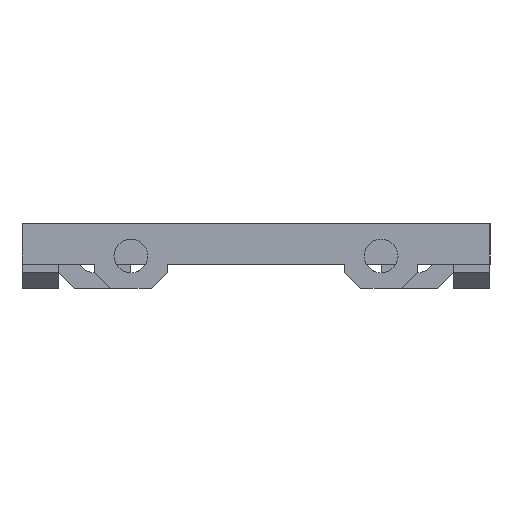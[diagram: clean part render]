
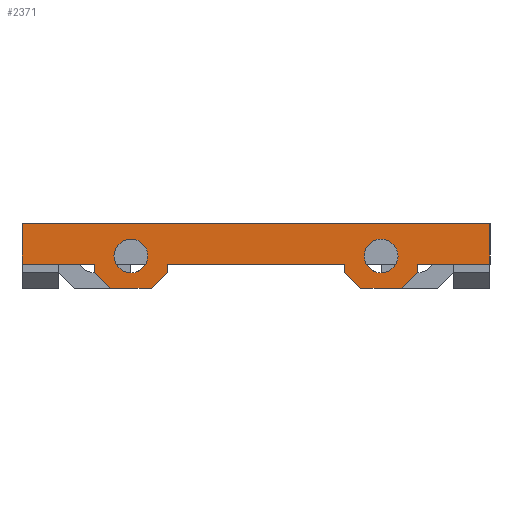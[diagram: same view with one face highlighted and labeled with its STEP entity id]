
A CAD part, left-side view. The second image highlights one B-rep face of the part: STEP entity #2371.
In plain terms, the highlighted planar face has unit normal (-1, 0, 0).
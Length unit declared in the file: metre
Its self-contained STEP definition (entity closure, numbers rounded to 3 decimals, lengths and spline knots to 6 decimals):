
#82=LINE('',#3388,#374);
#90=LINE('',#3404,#382);
#98=LINE('',#3420,#390);
#143=LINE('',#3531,#435);
#171=LINE('',#3600,#463);
#196=LINE('',#3656,#488);
#204=LINE('',#3681,#496);
#205=LINE('',#3683,#497);
#206=LINE('',#3685,#498);
#207=LINE('',#3687,#499);
#208=LINE('',#3689,#500);
#209=LINE('',#3690,#501);
#210=LINE('',#3692,#502);
#211=LINE('',#3694,#503);
#212=LINE('',#3696,#504);
#213=LINE('',#3698,#505);
#374=VECTOR('',#2715,1.);
#382=VECTOR('',#2723,1.);
#390=VECTOR('',#2731,1.);
#435=VECTOR('',#2798,1.);
#463=VECTOR('',#2844,1.);
#488=VECTOR('',#2883,1.);
#496=VECTOR('',#2909,1.);
#497=VECTOR('',#2910,1.);
#498=VECTOR('',#2911,1.);
#499=VECTOR('',#2912,1.);
#500=VECTOR('',#2913,1.);
#501=VECTOR('',#2914,1.);
#502=VECTOR('',#2915,1.);
#503=VECTOR('',#2916,1.);
#504=VECTOR('',#2917,1.);
#505=VECTOR('',#2918,1.);
#840=ORIENTED_EDGE('',*,*,#1497,.F.);
#841=ORIENTED_EDGE('',*,*,#1498,.F.);
#842=ORIENTED_EDGE('',*,*,#1499,.F.);
#843=ORIENTED_EDGE('',*,*,#1500,.T.);
#844=ORIENTED_EDGE('',*,*,#1501,.F.);
#845=ORIENTED_EDGE('',*,*,#1502,.T.);
#846=ORIENTED_EDGE('',*,*,#1503,.T.);
#847=ORIENTED_EDGE('',*,*,#1359,.F.);
#848=ORIENTED_EDGE('',*,*,#1504,.F.);
#849=ORIENTED_EDGE('',*,*,#1505,.T.);
#850=ORIENTED_EDGE('',*,*,#1506,.F.);
#851=ORIENTED_EDGE('',*,*,#1507,.T.);
#852=ORIENTED_EDGE('',*,*,#1508,.T.);
#853=ORIENTED_EDGE('',*,*,#1351,.F.);
#854=ORIENTED_EDGE('',*,*,#1458,.F.);
#855=ORIENTED_EDGE('',*,*,#1422,.T.);
#856=ORIENTED_EDGE('',*,*,#1488,.T.);
#857=ORIENTED_EDGE('',*,*,#1367,.F.);
#1351=EDGE_CURVE('',#1692,#1693,#82,.T.);
#1359=EDGE_CURVE('',#1700,#1701,#90,.T.);
#1367=EDGE_CURVE('',#1708,#1709,#98,.T.);
#1422=EDGE_CURVE('',#1761,#1763,#143,.T.);
#1458=EDGE_CURVE('',#1761,#1692,#171,.T.);
#1488=EDGE_CURVE('',#1763,#1709,#196,.T.);
#1497=EDGE_CURVE('',#1826,#1826,#1903,.T.);
#1498=EDGE_CURVE('',#1827,#1827,#1904,.T.);
#1499=EDGE_CURVE('',#1828,#1708,#204,.T.);
#1500=EDGE_CURVE('',#1828,#1829,#205,.F.);
#1501=EDGE_CURVE('',#1830,#1829,#206,.T.);
#1502=EDGE_CURVE('',#1830,#1831,#207,.T.);
#1503=EDGE_CURVE('',#1831,#1701,#208,.T.);
#1504=EDGE_CURVE('',#1832,#1700,#209,.T.);
#1505=EDGE_CURVE('',#1832,#1833,#210,.T.);
#1506=EDGE_CURVE('',#1834,#1833,#211,.T.);
#1507=EDGE_CURVE('',#1834,#1835,#212,.F.);
#1508=EDGE_CURVE('',#1835,#1693,#213,.T.);
#1692=VERTEX_POINT('',#3387);
#1693=VERTEX_POINT('',#3389);
#1700=VERTEX_POINT('',#3403);
#1701=VERTEX_POINT('',#3405);
#1708=VERTEX_POINT('',#3419);
#1709=VERTEX_POINT('',#3421);
#1761=VERTEX_POINT('',#3526);
#1763=VERTEX_POINT('',#3530);
#1826=VERTEX_POINT('',#3678);
#1827=VERTEX_POINT('',#3680);
#1828=VERTEX_POINT('',#3682);
#1829=VERTEX_POINT('',#3684);
#1830=VERTEX_POINT('',#3686);
#1831=VERTEX_POINT('',#3688);
#1832=VERTEX_POINT('',#3691);
#1833=VERTEX_POINT('',#3693);
#1834=VERTEX_POINT('',#3695);
#1835=VERTEX_POINT('',#3697);
#1903=CIRCLE('',#2528,0.0021);
#1904=CIRCLE('',#2529,0.0021);
#1972=EDGE_LOOP('',(#840));
#1973=EDGE_LOOP('',(#841));
#1974=EDGE_LOOP('',(#842,#843,#844,#845,#846,#847,#848,#849,#850,#851,#852,
#853,#854,#855,#856,#857));
#2142=FACE_BOUND('',#1972,.T.);
#2143=FACE_BOUND('',#1973,.T.);
#2144=FACE_BOUND('',#1974,.T.);
#2270=PLANE('',#2527);
#2371=ADVANCED_FACE('',(#2142,#2143,#2144),#2270,.T.);
#2527=AXIS2_PLACEMENT_3D('',#3676,#2903,#2904);
#2528=AXIS2_PLACEMENT_3D('',#3677,#2905,#2906);
#2529=AXIS2_PLACEMENT_3D('',#3679,#2907,#2908);
#2715=DIRECTION('',(0.,1.,0.));
#2723=DIRECTION('',(0.,1.,0.));
#2731=DIRECTION('',(0.,1.,0.));
#2798=DIRECTION('',(0.,1.,0.));
#2844=DIRECTION('',(0.,0.,-1.));
#2883=DIRECTION('',(0.,0.,-1.));
#2903=DIRECTION('',(-1.,0.,0.));
#2904=DIRECTION('',(0.,-1.,0.));
#2905=DIRECTION('',(-1.,0.,0.));
#2906=DIRECTION('',(0.,-1.,0.));
#2907=DIRECTION('',(-1.,0.,0.));
#2908=DIRECTION('',(0.,-1.,0.));
#2909=DIRECTION('',(0.,0.,1.));
#2910=DIRECTION('',(0.,0.707,0.707));
#2911=DIRECTION('',(0.,1.,0.));
#2912=DIRECTION('',(0.,-0.707,0.707));
#2913=DIRECTION('',(0.,0.,1.));
#2914=DIRECTION('',(0.,0.,1.));
#2915=DIRECTION('',(0.,-0.707,-0.707));
#2916=DIRECTION('',(0.,1.,0.));
#2917=DIRECTION('',(0.,0.707,-0.707));
#2918=DIRECTION('',(0.,0.,1.));
#3387=CARTESIAN_POINT('',(-0.0445,-0.029,0.));
#3388=CARTESIAN_POINT('',(-0.0445,0.,0.));
#3389=CARTESIAN_POINT('',(-0.0445,-0.02,0.));
#3403=CARTESIAN_POINT('',(-0.0445,-0.011,0.));
#3404=CARTESIAN_POINT('',(-0.0445,0.,0.));
#3405=CARTESIAN_POINT('',(-0.0445,0.011,0.));
#3419=CARTESIAN_POINT('',(-0.0445,0.02,0.));
#3420=CARTESIAN_POINT('',(-0.0445,0.,0.));
#3421=CARTESIAN_POINT('',(-0.0445,0.029,0.));
#3526=CARTESIAN_POINT('',(-0.0445,-0.029,0.005));
#3530=CARTESIAN_POINT('',(-0.0445,0.029,0.005));
#3531=CARTESIAN_POINT('',(-0.0445,0.,0.005));
#3600=CARTESIAN_POINT('',(-0.0445,-0.029,0.005));
#3656=CARTESIAN_POINT('',(-0.0445,0.029,0.005));
#3676=CARTESIAN_POINT('',(-0.0445,0.,0.005));
#3677=CARTESIAN_POINT('',(-0.0445,-0.0155,0.001));
#3678=CARTESIAN_POINT('',(-0.0445,-0.0176,0.001));
#3679=CARTESIAN_POINT('',(-0.0445,0.0155,0.001));
#3680=CARTESIAN_POINT('',(-0.0445,0.0134,0.001));
#3681=CARTESIAN_POINT('',(-0.0445,0.02,-0.003));
#3682=CARTESIAN_POINT('',(-0.0445,0.02,-0.001));
#3683=CARTESIAN_POINT('',(-0.0445,0.013,-0.008));
#3684=CARTESIAN_POINT('',(-0.0445,0.018,-0.003));
#3685=CARTESIAN_POINT('',(-0.0445,0.,-0.003));
#3686=CARTESIAN_POINT('',(-0.0445,0.013,-0.003));
#3687=CARTESIAN_POINT('',(-0.0445,0.0025,0.0075));
#3688=CARTESIAN_POINT('',(-0.0445,0.011,-0.001));
#3689=CARTESIAN_POINT('',(-0.0445,0.011,-0.003));
#3690=CARTESIAN_POINT('',(-0.0445,-0.011,-0.003));
#3691=CARTESIAN_POINT('',(-0.0445,-0.011,-0.001));
#3692=CARTESIAN_POINT('',(-0.0445,-0.0025,0.0075));
#3693=CARTESIAN_POINT('',(-0.0445,-0.013,-0.003));
#3694=CARTESIAN_POINT('',(-0.0445,0.,-0.003));
#3695=CARTESIAN_POINT('',(-0.0445,-0.018,-0.003));
#3696=CARTESIAN_POINT('',(-0.0445,-0.013,-0.008));
#3697=CARTESIAN_POINT('',(-0.0445,-0.02,-0.001));
#3698=CARTESIAN_POINT('',(-0.0445,-0.02,-0.003));
